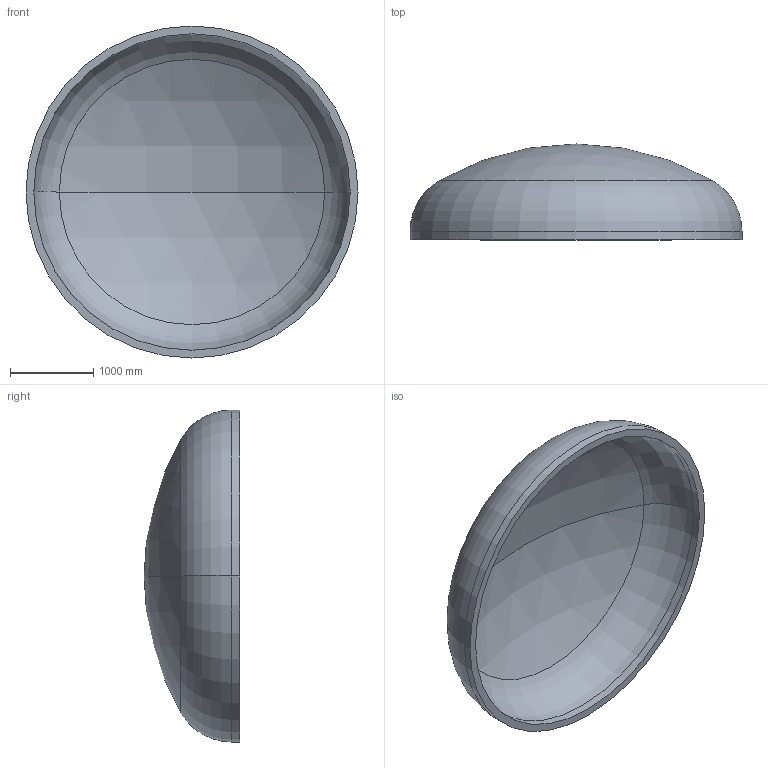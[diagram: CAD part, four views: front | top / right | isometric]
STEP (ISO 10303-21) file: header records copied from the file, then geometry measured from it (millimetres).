
FILE_DESCRIPTION (( 'STEP AP203' ), '1' );
FILE_NAME ('DIN 28013 Korbbogenform_-_Boden DIN 28013 - 4000 x 100 - I - s=94.step', '2016-07-01T22:46:18', ( '' ), ( '' ), 'SwSTEP 2.0', 'SolidWorks 2013', '' );
FILE_SCHEMA (( 'CONFIG_CONTROL_DESIGN' ));
Length unit declared in the file: millimetre
Products named in the file (1): DIN 28013 Korbbogenform_-_Boden DIN 28013 - 4000 x 100 - I - s=94
Bounding box: 4000 x 1154.46 x 4000 mm (x, y, z)
Volume: 1701119625.3 mm3; surface area: 37366007.7 mm2
Topology: 1 solids, 1 shells, 13 faces, 24 edges, 14 vertices
Faces by surface type: torus 4, cylinder 4, sphere 4, plane 1
Entity records: 407 total; most frequent: DIRECTION 72, CARTESIAN_POINT 52, ORIENTED_EDGE 48, AXIS2_PLACEMENT_3D 34, EDGE_CURVE 24, CIRCLE 20, VERTEX_POINT 14, EDGE_LOOP 14
